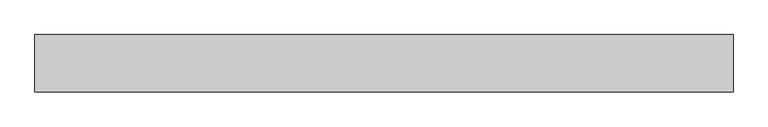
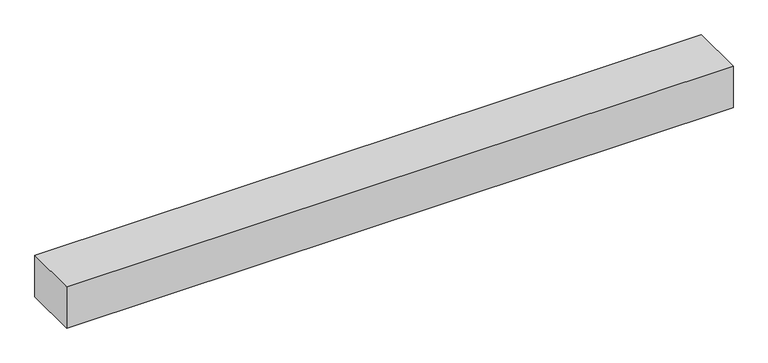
"""IFC4 building model written with IfcOpenShell, lengths in millimetres: geographic element geometry, r 低木密植 : 低木密植."""

import ifcopenshell
import ifcopenshell.guid

model = None  # the IFC model being written
_history = None  # IfcOwnerHistory: only IFC2X3 demands one
_inside = {}  # id of a spatial element -> (the spatial element, [elements in it])
_under = {}  # id of a project, library or spatial element -> (it, [spatial elements below it])
_declared = {}  # id of a project -> (the project, [libraries it declares])
_typed = {}  # id of a type object -> (the type object, [elements of that type])
_made_of = {}  # id of a material, layer set ... -> (it, [elements and type objects made of it])


def new_model(schema):
    """Start an empty IFC model of exactly this schema.

    Asked for "IFC4X3", IfcOpenShell would pick the latest addendum, in which some entities
    have other attributes; the version numbers below select the first issue.
    IFC2X3 requires an IfcOwnerHistory on every rooted entity: one is made here for all.
    """
    global model, _history
    if schema == "IFC4X3":
        model = ifcopenshell.file(schema_version=(4, 3, 0, 0))
    else:
        model = ifcopenshell.file(schema=schema)
    _inside.clear()
    _under.clear()
    _declared.clear()
    _typed.clear()
    _made_of.clear()
    _history = None
    if model.schema == "IFC2X3":
        org = make("IfcOrganization", Name="unknown")
        user = make(
            "IfcPersonAndOrganization",
            ThePerson=make("IfcPerson", FamilyName="unknown"),
            TheOrganization=org,
        )
        app = make(
            "IfcApplication",
            ApplicationDeveloper=org,
            Version="unknown",
            ApplicationFullName="unknown",
            ApplicationIdentifier="unknown",
        )
        _history = make(
            "IfcOwnerHistory",
            OwningUser=user,
            OwningApplication=app,
            ChangeAction="ADDED",
            CreationDate=0,
        )
    return model


def make(cls, **values):
    """One entity of the class cls with the attributes given. An attribute that is None is left unset."""
    return model.create_entity(
        cls, **{name: value for name, value in values.items() if value is not None}
    )


def rooted(cls, **values):
    """An entity with a GlobalId (a new one), such as an element, a storey or a relation."""
    return make(cls, GlobalId=ifcopenshell.guid.new(), OwnerHistory=_history, **values)


def si_unit(unit_type, name, prefix=None):
    """IfcSIUnit, for example si_unit("LENGTHUNIT", "METRE", prefix="MILLI")."""
    return make("IfcSIUnit", UnitType=unit_type, Prefix=prefix, Name=name)


def assignment(units):
    """IfcUnitAssignment: the units of a project."""
    return None if units is None else make("IfcUnitAssignment", Units=units)


def point(xyz):
    """IfcCartesianPoint."""
    return None if xyz is None else make("IfcCartesianPoint", Coordinates=xyz)


def direction(xyz):
    """IfcDirection."""
    return None if xyz is None else make("IfcDirection", DirectionRatios=xyz)


def frame(location, z_axis=None, x_axis=None):
    """IfcAxis2Placement3D, a coordinate frame: its origin and axes. An axis left out is left unset."""
    return make(
        "IfcAxis2Placement3D",
        Location=point(location),
        Axis=direction(z_axis),
        RefDirection=direction(x_axis),
    )


def origin():
    """The frame at (0, 0, 0) with its axes left unset."""
    return frame((0.0, 0.0, 0.0))


def origin_with_axes():
    """The frame at (0, 0, 0) with the z axis (0, 0, 1) and the x axis (1, 0, 0) written out."""
    return frame((0.0, 0.0, 0.0), z_axis=(0.0, 0.0, 1.0), x_axis=(1.0, 0.0, 0.0))


def place(relative_to, where):
    """IfcLocalPlacement: puts the frame where relative to a parent placement (None: the world)."""
    return make(
        "IfcLocalPlacement", PlacementRelTo=relative_to, RelativePlacement=where
    )


def context(
    kind, dimensions, precision=None, world=None, true_north=None, identifier=None
):
    """IfcGeometricRepresentationContext, for example the 3D "Model" context."""
    return make(
        "IfcGeometricRepresentationContext",
        ContextIdentifier=identifier,
        ContextType=kind,
        CoordinateSpaceDimension=dimensions,
        Precision=precision,
        WorldCoordinateSystem=world,
        TrueNorth=true_north,
    )


def project(units=None, contexts=None):
    """IfcProject with its units and contexts."""
    return rooted(
        "IfcProject",
        Name="project",
        RepresentationContexts=contexts,
        UnitsInContext=assignment(units),
    )


def spatial(cls, under=None, at=None, **own):
    """A site, building, storey or space (cls), placed at a placement, below another one or the project."""
    s = rooted(cls, ObjectPlacement=at, **own)
    if under is not None:
        _under.setdefault(under.id(), (under, []))[1].append(s)
    return s


def polyline(points):
    """IfcPolyline through the points."""
    return make("IfcPolyline", Points=[point(p) for p in points])


def outline(outer, holes=None, kind="AREA"):
    """IfcArbitraryClosedProfileDef: a profile drawn as a closed curve; with holes, ...WithVoids."""
    if holes is None:
        return make("IfcArbitraryClosedProfileDef", ProfileType=kind, OuterCurve=outer)
    return make(
        "IfcArbitraryProfileDefWithVoids",
        ProfileType=kind,
        OuterCurve=outer,
        InnerCurves=holes,
    )


def extrude(swept, where, along, depth):
    """IfcExtrudedAreaSolid: the profile swept, set in the frame where, extruded along a direction by depth."""
    return make(
        "IfcExtrudedAreaSolid",
        SweptArea=swept,
        Position=where,
        ExtrudedDirection=direction(along),
        Depth=depth,
    )


def shape(context_of_items, identifier, shape_type, items):
    """IfcShapeRepresentation: the items that make up one representation, for example the "Body"."""
    return make(
        "IfcShapeRepresentation",
        ContextOfItems=context_of_items,
        RepresentationIdentifier=identifier,
        RepresentationType=shape_type,
        Items=items,
    )


def source(mapping_origin, context_of_items, identifier, shape_type, items):
    """IfcRepresentationMap: a shape defined once, which mapped items show again and again."""
    return make(
        "IfcRepresentationMap",
        MappingOrigin=mapping_origin,
        MappedRepresentation=shape(context_of_items, identifier, shape_type, items),
    )


def transform(
    local_origin,
    x_axis=None,
    y_axis=None,
    z_axis=None,
    scale=None,
    scale2=None,
    scale3=None,
    uniform=True,
):
    """IfcCartesianTransformationOperator3D, or its non-uniform kind. x_axis, y_axis, z_axis: its Axis1, 2, 3."""
    if uniform:
        return make(
            "IfcCartesianTransformationOperator3D",
            Axis1=direction(x_axis),
            Axis2=direction(y_axis),
            LocalOrigin=point(local_origin),
            Scale=scale,
            Axis3=direction(z_axis),
        )
    return make(
        "IfcCartesianTransformationOperator3DnonUniform",
        Axis1=direction(x_axis),
        Axis2=direction(y_axis),
        LocalOrigin=point(local_origin),
        Scale=scale,
        Axis3=direction(z_axis),
        Scale2=scale2,
        Scale3=scale3,
    )


def mapped(mapping_source, mapping_target):
    """IfcMappedItem: shows the shape of a source again, moved by a transform."""
    return make(
        "IfcMappedItem", MappingSource=mapping_source, MappingTarget=mapping_target
    )


def made_of(thing, what):
    """Note that an element or type object is made of a material, layer set ...; save() writes the relation."""
    if what is not None:
        _made_of.setdefault(what.id(), (what, []))[1].append(thing)
    return thing


def element(
    cls,
    number,
    at=None,
    inside=None,
    cuts=None,
    type_object=None,
    material=None,
    context=None,
    identifier="Body",
    shape_type=None,
    held_by="IfcProductDefinitionShape",
    body=None,
    shapes=None,
    **own,
):
    """One element of the class cls, such as IfcWall. Its Tag is "e" and its number.

    at: its placement. inside: the storey or other place that contains it. cuts: it is an
    opening in that element (IfcRelVoidsElement). A single representation is given by context,
    identifier, shape_type and body (its items); several are given by shapes. held_by: the class
    of the entity that holds the representations. save() writes the other relations.
    """
    e = rooted(cls, Tag="e%d" % number, ObjectPlacement=at, **own)
    if body is not None:
        shapes = [shape(context, identifier, shape_type, body)]
    if shapes is not None:
        e.Representation = make(held_by, Representations=shapes)
    if inside is not None:
        _inside.setdefault(inside.id(), (inside, []))[1].append(e)
    if cuts is not None:
        rooted(
            "IfcRelVoidsElement", RelatingBuildingElement=cuts, RelatedOpeningElement=e
        )
    if type_object is not None:
        _typed.setdefault(type_object.id(), (type_object, []))[1].append(e)
    return made_of(e, material)


def aggregate(whole, parts):
    """IfcRelAggregates: a whole, such as a stair, and the parts it consists of."""
    return rooted("IfcRelAggregates", RelatingObject=whole, RelatedObjects=parts)


def save(model, path):
    """Write the relations noted so far, then the file.

    IfcRelAggregates (storeys below a building ...), IfcRelContainedInSpatialStructure (elements
    in a storey), IfcRelDefinesByType, IfcRelAssociatesMaterial and IfcRelDeclares: one each for
    every whole, place, type object, material and project.
    """
    for whole, parts in _under.values():
        aggregate(whole, parts)
    for where, things in _inside.values():
        rooted(
            "IfcRelContainedInSpatialStructure",
            RelatedElements=things,
            RelatingStructure=where,
        )
    for kind, things in _typed.values():
        rooted("IfcRelDefinesByType", RelatedObjects=things, RelatingType=kind)
    for what, things in _made_of.values():
        rooted("IfcRelAssociatesMaterial", RelatedObjects=things, RelatingMaterial=what)
    for by, libraries in _declared.values():
        rooted("IfcRelDeclares", RelatingContext=by, RelatedDefinitions=libraries)
    model.write(path)


def geographic_element_8ce92ec4(model_context):
    return source(origin(), model_context, "Body", "SweptSolid", [
        extrude(outline(polyline([(0.0, 0.0), (0.0, 500.0), (6083.2773052, 500.0), (6083.2773052, 0.0), (0.0, 0.0)])), origin_with_axes(), (0.0, 0.0, 1.0), 400.0),
    ])


if __name__ == "__main__":
    model = new_model("IFC4")
    model_context = context("Model", 3, world=origin())
    ifc_project = project(units=[si_unit("LENGTHUNIT", "METRE", prefix="MILLI")], contexts=[model_context])
    site = spatial("IfcSite", under=ifc_project)
    building = spatial("IfcBuilding", under=site)
    placement = place(None, origin())
    geographic_element_shape = geographic_element_8ce92ec4(model_context)
    element("IfcGeographicElement", 1, ObjectType="r 低木密植 : 低木密植", at=placement, inside=building, context=model_context, shape_type="MappedRepresentation", body=[
        mapped(geographic_element_shape, transform((0.0, 0.0, 0.0), x_axis=(1.0, 0.0, 0.0), y_axis=(0.0, 1.0, 0.0), z_axis=(0.0, 0.0, 1.0))),
    ])
    save(model, "model.ifc")
